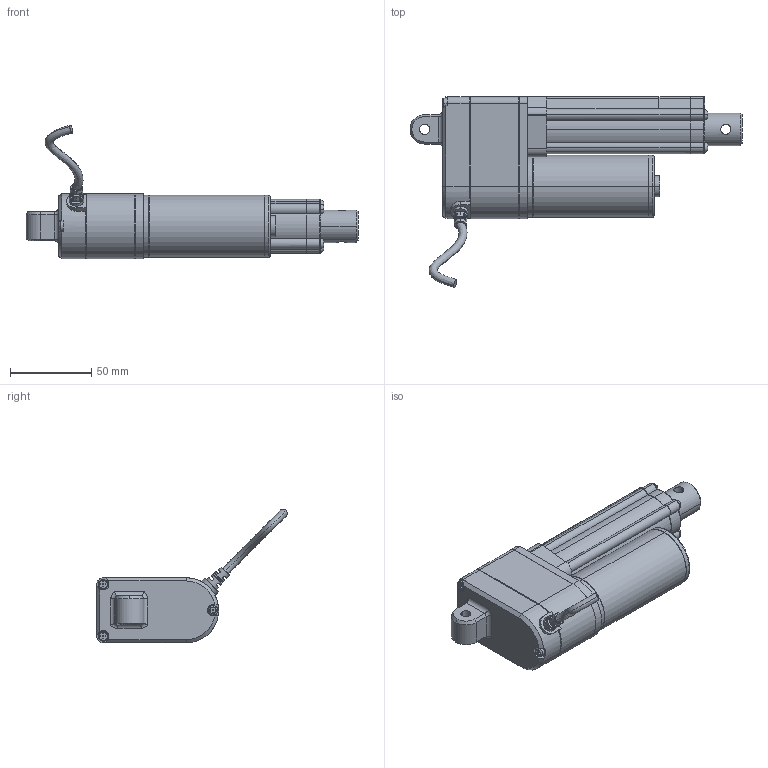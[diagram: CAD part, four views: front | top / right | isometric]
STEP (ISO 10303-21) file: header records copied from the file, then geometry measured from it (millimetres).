
FILE_DESCRIPTION(('STEP AP203'),'1');
FILE_NAME('dj806e150185e2f011r01111111a01230619180020.stp','2025-06-19T18:00:23',('TraceParts'),('TraceParts S.A.'),'Spatial InterOp 3D',' ',' ');
FILE_SCHEMA(('CONFIG_CONTROL_DESIGN'));
Length unit declared in the file: millimetre
Products named in the file (1): 1
Bounding box: 204 x 117.13 x 82.13 mm (x, y, z)
Volume: 353371.8 mm3; surface area: 45429.2 mm2
Topology: 1 solids, 1 shells, 384 faces, 1037 edges, 669 vertices
Faces by surface type: plane 198, cylinder 118, bspline 40, cone 14, torus 14
Entity records: 14087 total; most frequent: CARTESIAN_POINT 4755, ORIENTED_EDGE 2066, DIRECTION 1811, EDGE_CURVE 1033, VERTEX_POINT 669, AXIS2_PLACEMENT_3D 640, LINE 531, VECTOR 531
